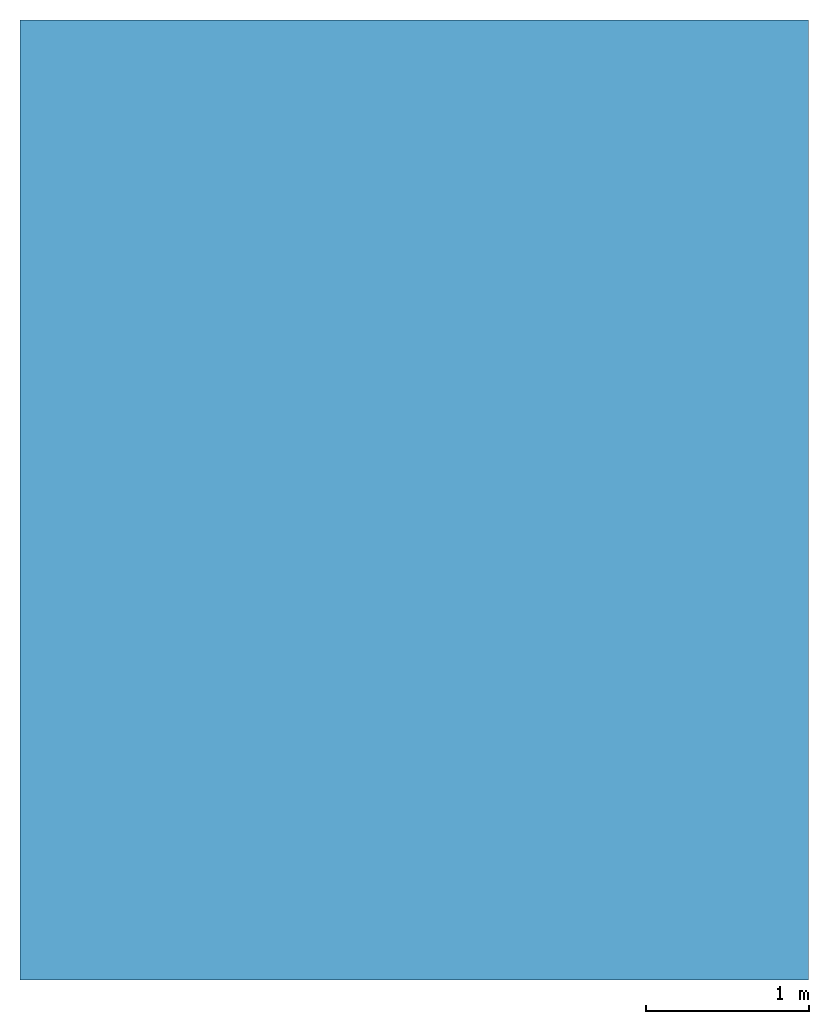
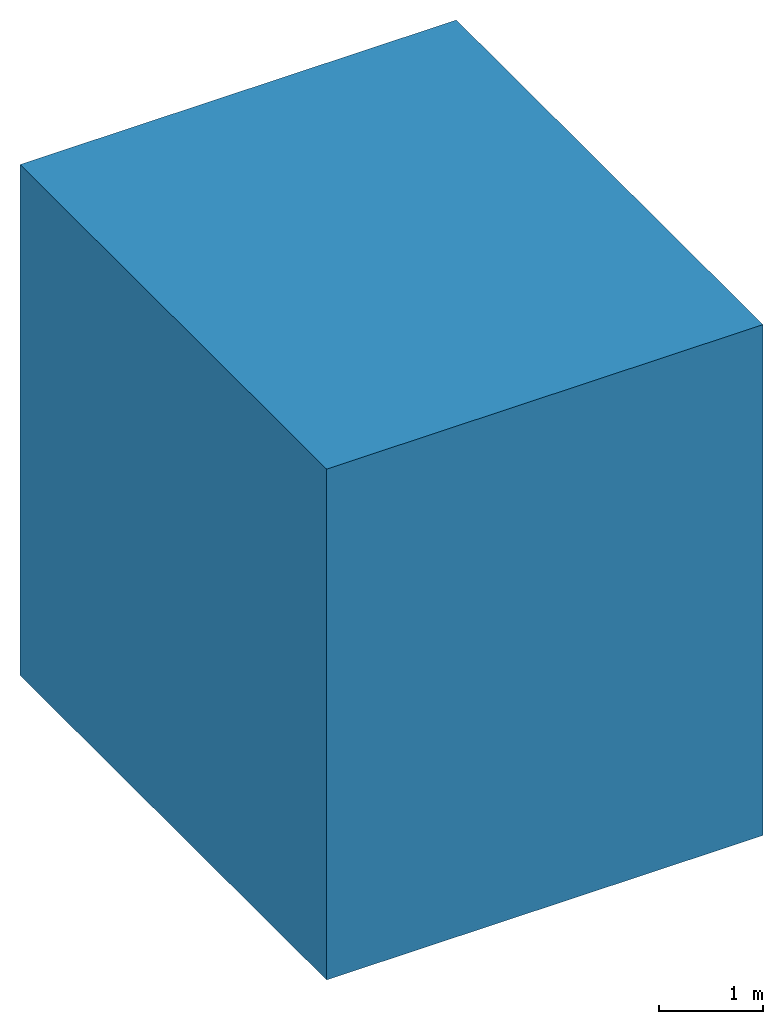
# One storey: 1 slab.
"""IFC2X3 building model written with IfcOpenShell, lengths in metres."""

from ifc_helpers import new_model, entity, si_unit, converted_unit, derived_unit, direction, frame, origin, origin_2d_with_axis, place, context, subcontext, project, spatial, rectangle, extrude, material, layer, layer_set, layer_usage, type_object, element, save


model = new_model("IFC2X3")

# Units and contexts
model_context = context("Model", 3, precision=1e-05, world=origin(), true_north=direction((6.12303176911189e-17, 1.0)))
body_context = subcontext(model_context, "Body", "Model", "MODEL_VIEW")
ifc_project = project(units=[si_unit("LENGTHUNIT", "METRE"), si_unit("AREAUNIT", "SQUARE_METRE"), si_unit("VOLUMEUNIT", "CUBIC_METRE"), converted_unit("PLANEANGLEUNIT", "DEGREE", entity("IfcRatioMeasure", 0.0174532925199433), si_unit("PLANEANGLEUNIT", "RADIAN"), dimensions=[0, 0, 0, 0, 0, 0, 0]), si_unit("MASSUNIT", "GRAM", prefix="KILO"), derived_unit("MASSDENSITYUNIT", [(si_unit("MASSUNIT", "GRAM", prefix="KILO"), 1), (si_unit("LENGTHUNIT", "METRE"), -3)]), derived_unit("MOMENTOFINERTIAUNIT", [(si_unit("LENGTHUNIT", "METRE"), 4)]), si_unit("TIMEUNIT", "SECOND"), si_unit("FREQUENCYUNIT", "HERTZ"), si_unit("THERMODYNAMICTEMPERATUREUNIT", "DEGREE_CELSIUS"), derived_unit("THERMALTRANSMITTANCEUNIT", [(si_unit("MASSUNIT", "GRAM", prefix="KILO"), 1), (si_unit("THERMODYNAMICTEMPERATUREUNIT", "KELVIN"), -1), (si_unit("TIMEUNIT", "SECOND"), -3)]), derived_unit("VOLUMETRICFLOWRATEUNIT", [(si_unit("LENGTHUNIT", "METRE"), 3), (si_unit("TIMEUNIT", "SECOND"), -1)]), si_unit("ELECTRICCURRENTUNIT", "AMPERE"), si_unit("ELECTRICVOLTAGEUNIT", "VOLT"), si_unit("POWERUNIT", "WATT"), si_unit("FORCEUNIT", "NEWTON", prefix="KILO"), si_unit("ILLUMINANCEUNIT", "LUX"), si_unit("LUMINOUSFLUXUNIT", "LUMEN"), si_unit("LUMINOUSINTENSITYUNIT", "CANDELA"), derived_unit("USERDEFINED", [(si_unit("MASSUNIT", "GRAM", prefix="KILO"), -1), (si_unit("LENGTHUNIT", "METRE"), -2), (si_unit("TIMEUNIT", "SECOND"), 3), (si_unit("LUMINOUSFLUXUNIT", "LUMEN"), 1)]), derived_unit("LINEARVELOCITYUNIT", [(si_unit("LENGTHUNIT", "METRE"), 1), (si_unit("TIMEUNIT", "SECOND"), -1)]), si_unit("PRESSUREUNIT", "PASCAL"), derived_unit("USERDEFINED", [(si_unit("LENGTHUNIT", "METRE"), -2), (si_unit("MASSUNIT", "GRAM", prefix="KILO"), 1), (si_unit("TIMEUNIT", "SECOND"), -2)]), derived_unit("LINEARFORCEUNIT", [(si_unit("MASSUNIT", "GRAM", prefix="KILO"), 1), (si_unit("LENGTHUNIT", "METRE"), 1), (si_unit("TIMEUNIT", "SECOND"), -2), (si_unit("LENGTHUNIT", "METRE"), -1)]), derived_unit("PLANARFORCEUNIT", [(si_unit("MASSUNIT", "GRAM", prefix="KILO"), 1), (si_unit("LENGTHUNIT", "METRE"), 1), (si_unit("TIMEUNIT", "SECOND"), -2), (si_unit("LENGTHUNIT", "METRE"), -2)])], contexts=[model_context])

# Site, building, storey
site_placement = place(None, frame((0.0, 0.0, 57.0)))
site = spatial("IfcSite", under=ifc_project, at=site_placement, Name="Default", CompositionType="ELEMENT")
building_placement = place(site_placement, origin())
building = spatial("IfcBuilding", under=site, at=building_placement, CompositionType="ELEMENT")
storey_placement = place(building_placement, frame((0.0, 0.0, 7.0)))
storey = spatial("IfcBuildingStorey", under=building, at=storey_placement, Name="Level 2", CompositionType="ELEMENT", Elevation=6.99999999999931)

# Slab
ifc_material = material(Name="Default Roof")
ifc_layer = layer(ifc_material, 6.0)
ifc_layer_set = layer_set([ifc_layer], Name="Floor:XCA_Floor_6m")
ifc_layer_usage = layer_usage(ifc_layer_set, "AXIS3", "POSITIVE", 0.0)
slab_type = type_object("IfcSlabType", Name="Floor:XCA_Floor_6m", PredefinedType="FLOOR", material=ifc_layer_set)
slab_placement = place(storey_placement, origin())
element("IfcSlab", 1, at=slab_placement, inside=storey, type_object=slab_type, material=ifc_layer_usage, Name="Floor:XCA_Floor_6m", ObjectType="Floor:XCA_Floor_6m", PredefinedType="FLOOR", context=body_context, shape_type="SweptSolid", body=[
    extrude(rectangle(XDim=5.90000000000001, YDim=4.84738217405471, at=origin_2d_with_axis()), frame((9.49377177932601, 0.0393022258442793, 0.0), z_axis=(0.0, 0.0, -1.0), x_axis=(0.0, 1.0, 0.0)), (0.0, 0.0, 1.0), 6.0),
])

save(model, "model.ifc")
